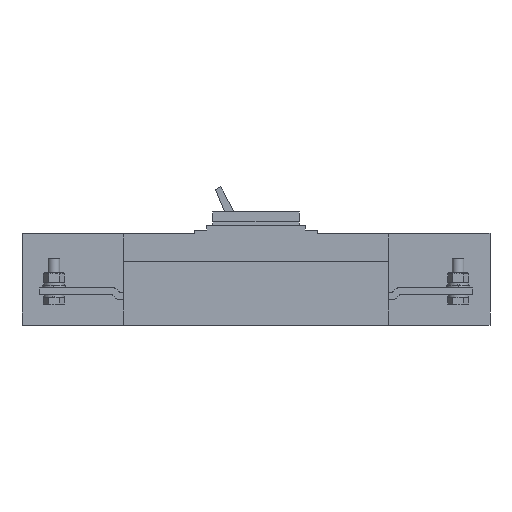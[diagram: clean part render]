
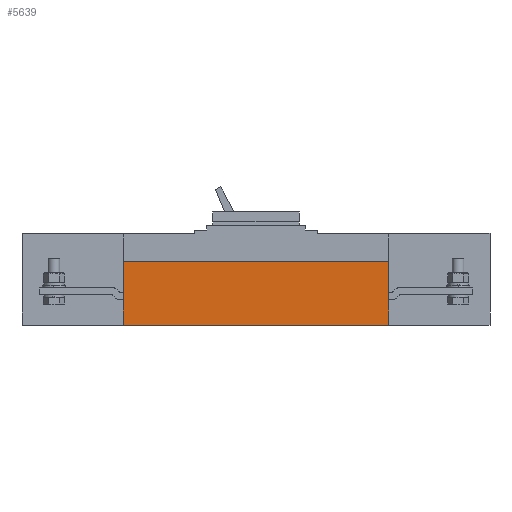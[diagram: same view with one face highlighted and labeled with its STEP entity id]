
A CAD part, left-side view. The second image highlights one B-rep face of the part: STEP entity #5639.
In plain terms, the highlighted planar face has unit normal (-1, 0, 0).
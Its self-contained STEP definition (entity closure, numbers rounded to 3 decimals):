
#158 = EDGE_CURVE ( 'NONE', #9735, #3595, #2774, .T. ) ;
#240 = ORIENTED_EDGE ( 'NONE', *, *, #554, .F. ) ;
#336 = DIRECTION ( 'NONE',  ( 0., 0., -1. ) ) ;
#554 = EDGE_CURVE ( 'NONE', #3595, #5167, #3410, .T. ) ;
#1033 = DIRECTION ( 'NONE',  ( 0., 1., 0. ) ) ;
#1226 = PLANE ( 'NONE',  #9896 ) ;
#1571 = ORIENTED_EDGE ( 'NONE', *, *, #158, .F. ) ;
#1572 = LINE ( 'NONE', #6773, #2974 ) ;
#1962 = VECTOR ( 'NONE', #10587, 1000. ) ;
#2683 = CARTESIAN_POINT ( 'NONE',  ( -105., -16., 0. ) ) ;
#2774 = LINE ( 'NONE', #8065, #8688 ) ;
#2974 = VECTOR ( 'NONE', #11496, 1000. ) ;
#3410 = LINE ( 'NONE', #6985, #1962 ) ;
#3595 = VERTEX_POINT ( 'NONE', #7222 ) ;
#3634 = ORIENTED_EDGE ( 'NONE', *, *, #7018, .F. ) ;
#4623 = DIRECTION ( 'NONE',  ( 0., 0., -1. ) ) ;
#4704 = CARTESIAN_POINT ( 'NONE',  ( -105., 259., 65.7 ) ) ;
#5167 = VERTEX_POINT ( 'NONE', #4704 ) ;
#5519 = LINE ( 'NONE', #2683, #9971 ) ;
#5639 = ADVANCED_FACE ( 'NONE', ( #9207 ), #1226, .F. ) ;
#6604 = CARTESIAN_POINT ( 'NONE',  ( -105., 0., 0. ) ) ;
#6773 = CARTESIAN_POINT ( 'NONE',  ( -105., 0., 65.7 ) ) ;
#6970 = CARTESIAN_POINT ( 'NONE',  ( -105., -16., 65.7 ) ) ;
#6985 = CARTESIAN_POINT ( 'NONE',  ( -105., 259., 0. ) ) ;
#7018 = EDGE_CURVE ( 'NONE', #5167, #10552, #1572, .T. ) ;
#7222 = CARTESIAN_POINT ( 'NONE',  ( -105., 259., 0. ) ) ;
#8065 = CARTESIAN_POINT ( 'NONE',  ( -105., -16., 0. ) ) ;
#8688 = VECTOR ( 'NONE', #1033, 1000. ) ;
#8761 = CARTESIAN_POINT ( 'NONE',  ( -105., -16., 0. ) ) ;
#9207 = FACE_OUTER_BOUND ( 'NONE', #10383, .T. ) ;
#9735 = VERTEX_POINT ( 'NONE', #8761 ) ;
#9896 = AXIS2_PLACEMENT_3D ( 'NONE', #6604, #10211, #336 ) ;
#9971 = VECTOR ( 'NONE', #4623, 1000. ) ;
#10211 = DIRECTION ( 'NONE',  ( 1., 0., 0. ) ) ;
#10383 = EDGE_LOOP ( 'NONE', ( #3634, #240, #1571, #11116 ) ) ;
#10552 = VERTEX_POINT ( 'NONE', #6970 ) ;
#10587 = DIRECTION ( 'NONE',  ( 0., 0., 1. ) ) ;
#10762 = EDGE_CURVE ( 'NONE', #10552, #9735, #5519, .T. ) ;
#11116 = ORIENTED_EDGE ( 'NONE', *, *, #10762, .F. ) ;
#11496 = DIRECTION ( 'NONE',  ( 0., -1., 0. ) ) ;
